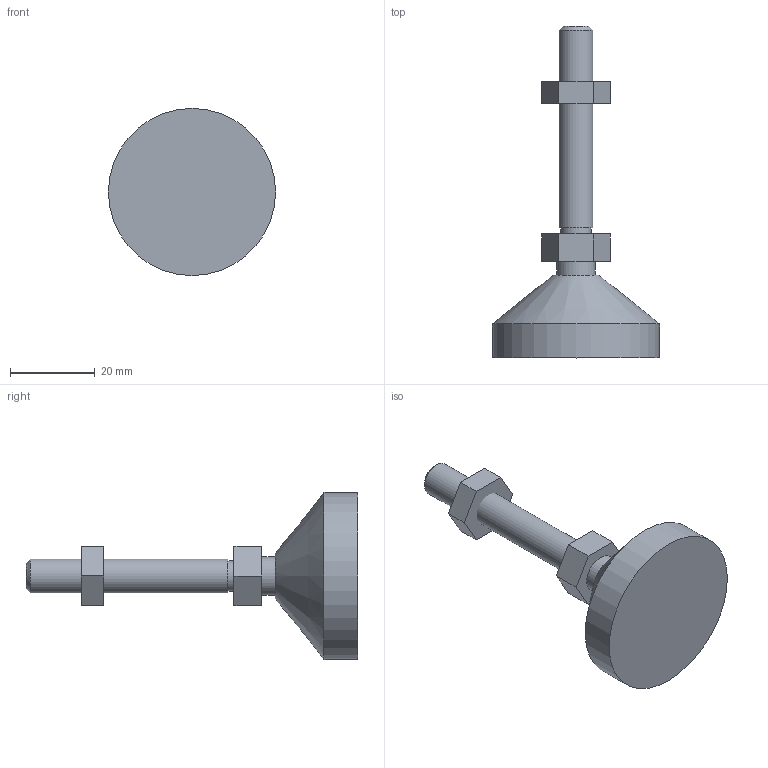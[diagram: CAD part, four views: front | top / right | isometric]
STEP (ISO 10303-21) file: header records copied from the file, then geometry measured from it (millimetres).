
FILE_DESCRIPTION(/* description */ ('','CAx-IF Rec.Pracs.---Representation and Presentation of Product Manufacturing Information (PMI)---4.0---2014-10-13'),/* implementation_level */ '2;1');
FILE_NAME(/* name */ 'BD40-8x50.stp',/* time_stamp */ '2026-05-13T11:11:38+02:00',/* author */ ('Motedis'),/* organization */ (''),/* preprocessor_version */ 'ST-DEVELOPER v20.1',/* originating_system */ 'Autodesk Inventor 2026',/* authorisation */ '');
FILE_SCHEMA (('AP242_MANAGED_MODEL_BASED_3D_ENGINEERING_MIM_LF { 1 0 10303 442 2 1 4 }'));
Length unit declared in the file: millimetre
Products named in the file (4): BD40-8x50; M8 Thread L50; Base50; NutM8
Assembly tree (3 placements, depth 2):
  BD40-8x50
    M8 Thread L50
    Base50
    NutM8
Bounding box: 39.4 x 78.24 x 39.4 mm (x, y, z)
Volume: 20694.5 mm3; surface area: 7320.1 mm2
Topology: 3 solids, 3 shells, 29 faces, 63 edges, 42 vertices
Faces by surface type: plane 20, cylinder 5, cone 2, sphere 2
Full cylindrical faces by diameter (mm): 6.647 x1, 7.2 x1, 8 x1, 9.1 x1, 39.4 x1
Entity records: 1313 total; most frequent: DIRECTION 253, CARTESIAN_POINT 207, ORIENTED_EDGE 118, AXIS2_PLACEMENT_3D 105, EDGE_CURVE 59, LINE 43, VECTOR 43, VERTEX_POINT 42
